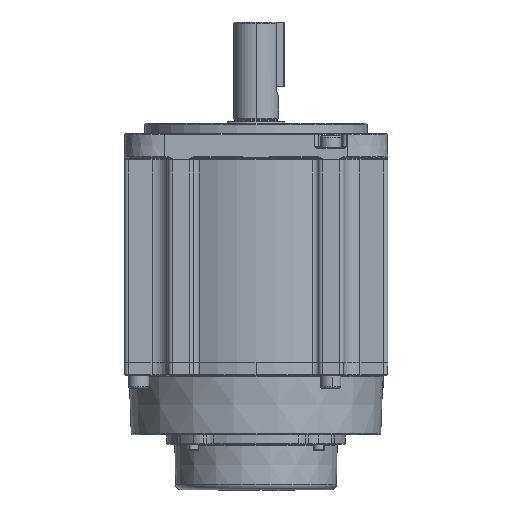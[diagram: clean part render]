
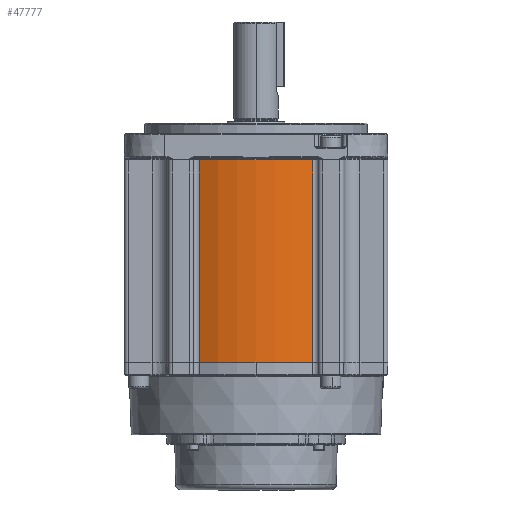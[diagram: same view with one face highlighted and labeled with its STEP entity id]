
A CAD part, front view. The second image highlights one B-rep face of the part: STEP entity #47777.
In plain terms, the highlighted cylindrical face has radius 64.5 mm (diameter 129 mm), a partial arc.
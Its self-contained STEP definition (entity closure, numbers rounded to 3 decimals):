
#189 = LINE ( 'NONE', #894, #45265 ) ;
#894 = CARTESIAN_POINT ( 'NONE',  ( -27.9, -58.154, -51. ) ) ;
#2831 = LINE ( 'NONE', #30108, #36295 ) ;
#3070 = VERTEX_POINT ( 'NONE', #53099 ) ;
#4823 = EDGE_CURVE ( 'NONE', #32828, #3070, #35362, .T. ) ;
#7817 = CYLINDRICAL_SURFACE ( 'NONE', #40353, 64.5 ) ;
#10118 = VERTEX_POINT ( 'NONE', #18089 ) ;
#10902 = ORIENTED_EDGE ( 'NONE', *, *, #4823, .F. ) ;
#11210 = CARTESIAN_POINT ( 'NONE',  ( 0., 0., 50. ) ) ;
#14471 = DIRECTION ( 'NONE',  ( 1., 0., 0. ) ) ;
#14585 = EDGE_CURVE ( 'NONE', #51218, #10118, #50258, .T. ) ;
#15615 = DIRECTION ( 'NONE',  ( 0., -1., 0. ) ) ;
#18089 = CARTESIAN_POINT ( 'NONE',  ( -27.9, -58.154, -50. ) ) ;
#18718 = CARTESIAN_POINT ( 'NONE',  ( -27.9, -58.154, 50. ) ) ;
#22344 = DIRECTION ( 'NONE',  ( 0., 0., -1. ) ) ;
#24425 = AXIS2_PLACEMENT_3D ( 'NONE', #11210, #41745, #15615 ) ;
#25730 = DIRECTION ( 'NONE',  ( 0., 0., 1. ) ) ;
#28080 = DIRECTION ( 'NONE',  ( 0., 0., 1. ) ) ;
#30108 = CARTESIAN_POINT ( 'NONE',  ( 27.9, -58.154, -51. ) ) ;
#32242 = EDGE_LOOP ( 'NONE', ( #54374, #43639, #10902, #33552 ) ) ;
#32399 = CARTESIAN_POINT ( 'NONE',  ( 0., 0., -51. ) ) ;
#32410 = FACE_OUTER_BOUND ( 'NONE', #32242, .T. ) ;
#32828 = VERTEX_POINT ( 'NONE', #18718 ) ;
#33552 = ORIENTED_EDGE ( 'NONE', *, *, #40677, .T. ) ;
#35362 = CIRCLE ( 'NONE', #24425, 64.5 ) ;
#36295 = VECTOR ( 'NONE', #25730, 1000. ) ;
#37951 = CARTESIAN_POINT ( 'NONE',  ( 27.9, -58.154, -50. ) ) ;
#38812 = AXIS2_PLACEMENT_3D ( 'NONE', #48462, #22344, #52817 ) ;
#39350 = EDGE_CURVE ( 'NONE', #51218, #3070, #2831, .T. ) ;
#40353 = AXIS2_PLACEMENT_3D ( 'NONE', #32399, #28080, #14471 ) ;
#40677 = EDGE_CURVE ( 'NONE', #32828, #10118, #189, .T. ) ;
#41745 = DIRECTION ( 'NONE',  ( 0., 0., 1. ) ) ;
#43639 = ORIENTED_EDGE ( 'NONE', *, *, #39350, .T. ) ;
#45265 = VECTOR ( 'NONE', #48973, 1000. ) ;
#47777 = ADVANCED_FACE ( 'NONE', ( #32410 ), #7817, .T. ) ;
#48462 = CARTESIAN_POINT ( 'NONE',  ( 0., 0., -50. ) ) ;
#48973 = DIRECTION ( 'NONE',  ( 0., 0., -1. ) ) ;
#50258 = CIRCLE ( 'NONE', #38812, 64.5 ) ;
#51218 = VERTEX_POINT ( 'NONE', #37951 ) ;
#52817 = DIRECTION ( 'NONE',  ( 0., 1., 0. ) ) ;
#53099 = CARTESIAN_POINT ( 'NONE',  ( 27.9, -58.154, 50. ) ) ;
#54374 = ORIENTED_EDGE ( 'NONE', *, *, #14585, .F. ) ;
